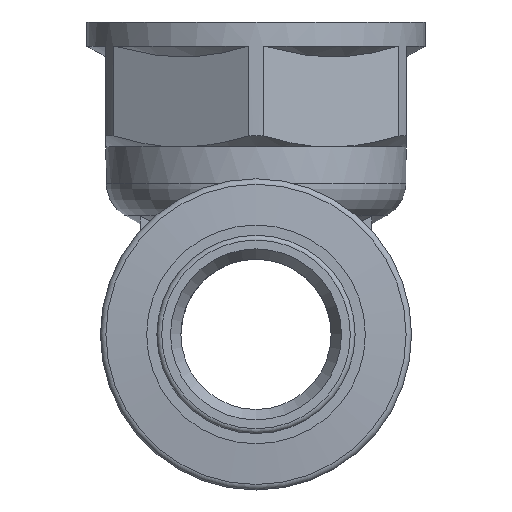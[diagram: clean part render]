
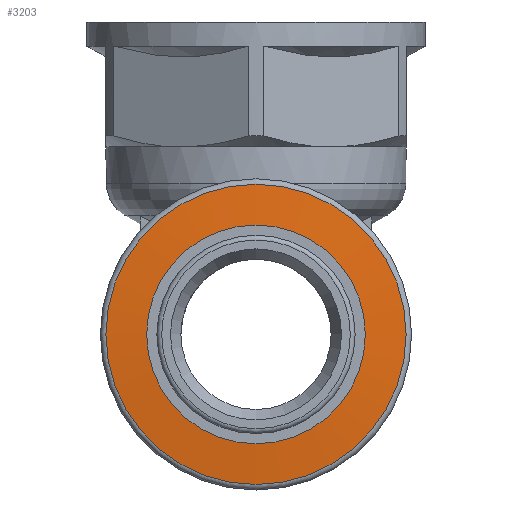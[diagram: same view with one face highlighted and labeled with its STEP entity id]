
A CAD part, front view. The second image highlights one B-rep face of the part: STEP entity #3203.
In plain terms, the highlighted conical face has half-angle 85 degrees and reference radius 10.628 mm.
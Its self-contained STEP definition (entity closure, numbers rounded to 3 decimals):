
#3203=ADVANCED_FACE('',(#6439,#6441),#6443,.T.);
#6439=FACE_OUTER_BOUND('',#6440,.T.);
#6440=EDGE_LOOP('',(#9079));
#6441=FACE_BOUND('',#6442,.T.);
#6442=EDGE_LOOP('',(#9080,#9081));
#6443=CONICAL_SURFACE('',#6444,10.628,1.484);
#6444=AXIS2_PLACEMENT_3D('',#6445,#6446,#6447);
#6445=CARTESIAN_POINT('',(0.,-24.203,0.));
#6446=DIRECTION('',(0.,1.,0.));
#6447=DIRECTION('',(0.,0.,1.));
#9079=ORIENTED_EDGE('',*,*,#10085,.T.);
#9080=ORIENTED_EDGE('',*,*,#10089,.T.);
#9081=ORIENTED_EDGE('',*,*,#10090,.T.);
#10085=EDGE_CURVE('',#11665,#11665,#11666,.F.);
#10089=EDGE_CURVE('',#11673,#11674,#11675,.T.);
#10090=EDGE_CURVE('',#11674,#11673,#11676,.T.);
#11665=VERTEX_POINT('',#16919);
#11666=CIRCLE('',#16920,12.494);
#11673=VERTEX_POINT('',#16939);
#11674=VERTEX_POINT('',#16940);
#11675=CIRCLE('',#16941,8.763);
#11676=CIRCLE('',#16945,8.763);
#16919=CARTESIAN_POINT('',(0.,-24.04,12.494));
#16920=AXIS2_PLACEMENT_3D('',#16921,#16922,#16923);
#16921=CARTESIAN_POINT('',(0.,-24.04,0.));
#16922=DIRECTION('',(0.,1.,0.));
#16923=DIRECTION('',(0.,0.,1.));
#16939=CARTESIAN_POINT('',(0.,-24.366,8.763));
#16940=CARTESIAN_POINT('',(-8.763,-24.366,0.));
#16941=AXIS2_PLACEMENT_3D('',#16942,#16943,#16944);
#16942=CARTESIAN_POINT('',(0.,-24.366,0.));
#16943=DIRECTION('',(0.,1.,0.));
#16944=DIRECTION('',(0.,0.,1.));
#16945=AXIS2_PLACEMENT_3D('',#16946,#16947,#16948);
#16946=CARTESIAN_POINT('',(0.,-24.366,0.));
#16947=DIRECTION('',(0.,1.,0.));
#16948=DIRECTION('',(-1.,0.,0.));
